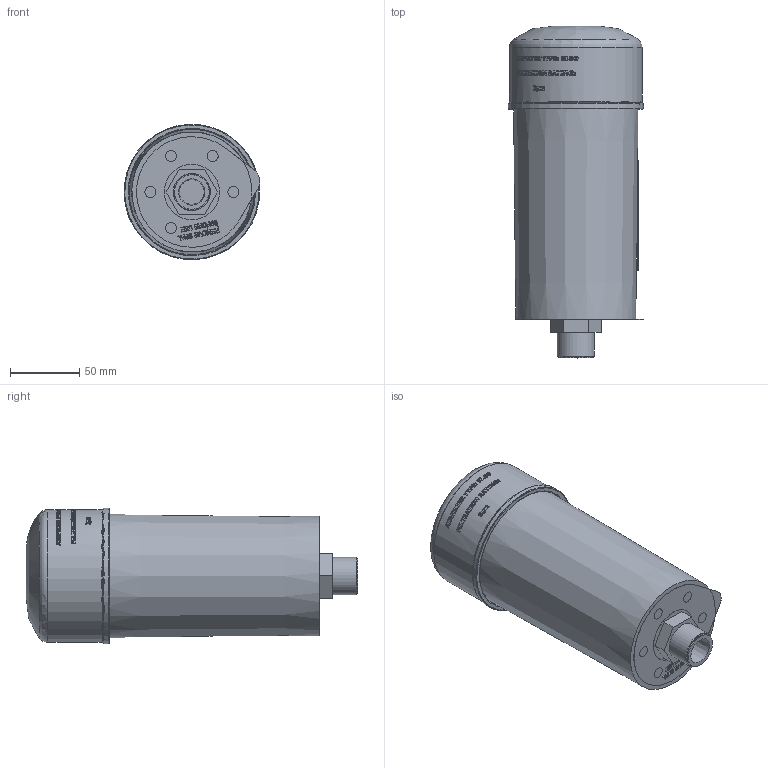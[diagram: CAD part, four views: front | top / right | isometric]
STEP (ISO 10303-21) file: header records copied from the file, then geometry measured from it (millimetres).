
FILE_DESCRIPTION(/* description */ (''),/* implementation_level */ '2;1');
FILE_NAME(/* name */ 'O:\Tekeningen\3D stepfiles\BSF\KL96R1.stp',/* time_stamp */ '2026-06-10T09:49:34+02:00',/* author */ ('sales'),/* organization */ (''),/* preprocessor_version */ 'ST-DEVELOPER v18',/* originating_system */ 'Autodesk Inventor LT',/* authorisation */ '');
FILE_SCHEMA (('AUTOMOTIVE_DESIGN { 1 0 10303 214 3 1 1 }'));
Length unit declared in the file: millimetre
Products named in the file (1): KL96R
Bounding box: 98.17 x 240 x 97.89 mm (x, y, z)
Volume: 251651.4 mm3; surface area: 192042.3 mm2
Topology: 2 solids, 5 shells, 1766 faces, 4803 edges, 3215 vertices
Faces by surface type: plane 1141, bspline 444, cylinder 129, torus 33, cone 15, sphere 4
Full cylindrical faces by diameter (mm): 8 x6, 21.9 x1, 25 x1, 26.9 x3, 34.44 x1, 40 x1, 57 x1, 61.2 x1, 62 x1, 72 x1, 72.8 x1, 82 x1, 90 x1, 91 x1, 91.8 x1, 95.2 x1, 96 x1, 97.2 x1, 98 x1
Entity records: 67166 total; most frequent: CARTESIAN_POINT 22776, ORIENTED_EDGE 9602, DIRECTION 7581, EDGE_CURVE 4801, VERTEX_POINT 3215, LINE 2811, VECTOR 2811, AXIS2_PLACEMENT_3D 2385
